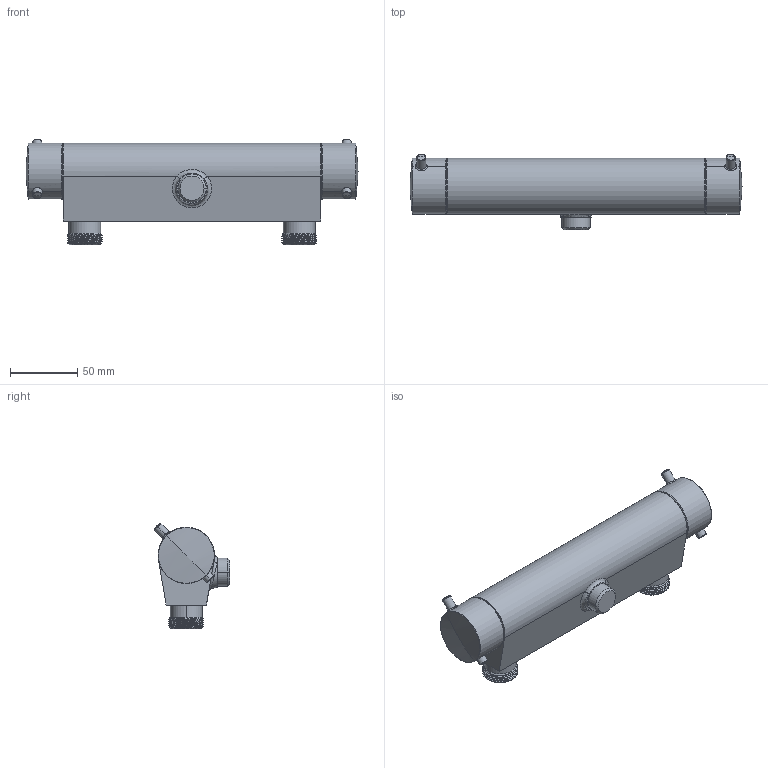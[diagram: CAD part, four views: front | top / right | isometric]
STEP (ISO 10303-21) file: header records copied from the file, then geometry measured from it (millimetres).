
FILE_DESCRIPTION((''),'2;1');
FILE_NAME('91475--00_SCRINKWRAP','2026-09-07T14:26:17',('clra1'),(''),'CREO PARAMETRIC BY PTC INC, 2022244','CREO PARAMETRIC BY PTC INC, 2022244','');
FILE_SCHEMA(('CONFIG_CONTROL_DESIGN'));
Length unit declared in the file: millimetre
Products named in the file (1): 91475--00_SCRINKWRAP
Bounding box: 247.41 x 56.47 x 78.67 mm (x, y, z)
Surface area: 55472.9 mm2 (no closed solid volume)
Topology: 0 solids, 10 shells, 107 faces, 270 edges, 156 vertices
Faces by surface type: cylinder 37, bspline 18, torus 16, cone 13, sphere 12, plane 11
Entity records: 9561 total; most frequent: CARTESIAN_POINT 7210, ORIENTED_EDGE 486, DIRECTION 453, EDGE_CURVE 258, AXIS2_PLACEMENT_3D 192, VERTEX_POINT 156, EDGE_LOOP 107, FACE_OUTER_BOUND 107
